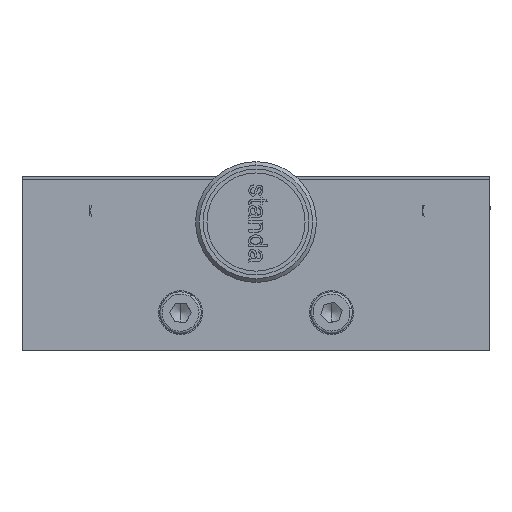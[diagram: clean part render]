
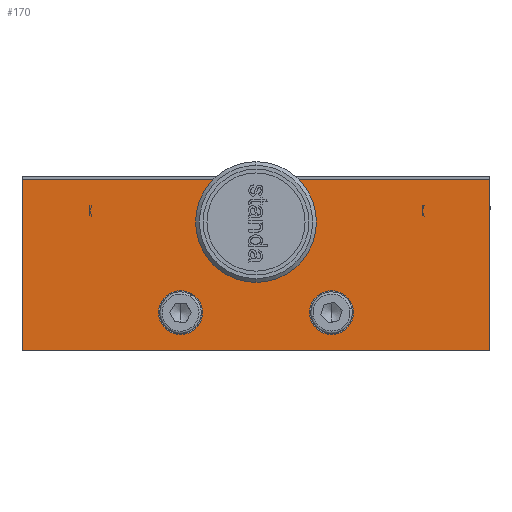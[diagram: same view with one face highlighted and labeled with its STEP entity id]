
A CAD part, front view. The second image highlights one B-rep face of the part: STEP entity #170.
In plain terms, the highlighted planar face has unit normal (0, -1, 0).
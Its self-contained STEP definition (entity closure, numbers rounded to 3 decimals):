
#157 = EDGE_CURVE ( 'NONE', #158, #234, #9746, .T. ) ;
#158 = VERTEX_POINT ( 'NONE', #9742 ) ;
#159 = ORIENTED_EDGE ( 'NONE', *, *, #160, .F. ) ;
#160 = EDGE_CURVE ( 'NONE', #161, #158, #9741, .T. ) ;
#161 = VERTEX_POINT ( 'NONE', #9805 ) ;
#162 = ORIENTED_EDGE ( 'NONE', *, *, #214, .F. ) ;
#170 = ADVANCED_FACE ( 'NONE', ( #9799, #9798, #9797, #9796 ), #9795, .T. ) ;
#171 = EDGE_LOOP ( 'NONE', ( #172, #173 ) ) ;
#172 = ORIENTED_EDGE ( 'NONE', *, *, #8155, .T. ) ;
#173 = ORIENTED_EDGE ( 'NONE', *, *, #307, .T. ) ;
#174 = EDGE_LOOP ( 'NONE', ( #175, #176 ) ) ;
#175 = ORIENTED_EDGE ( 'NONE', *, *, #8137, .T. ) ;
#176 = ORIENTED_EDGE ( 'NONE', *, *, #325, .T. ) ;
#214 = EDGE_CURVE ( 'NONE', #235, #161, #9851, .T. ) ;
#228 = EDGE_LOOP ( 'NONE', ( #229, #230 ) ) ;
#229 = ORIENTED_EDGE ( 'NONE', *, *, #8206, .T. ) ;
#230 = ORIENTED_EDGE ( 'NONE', *, *, #318, .T. ) ;
#231 = EDGE_LOOP ( 'NONE', ( #232, #236, #159, #162 ) ) ;
#232 = ORIENTED_EDGE ( 'NONE', *, *, #233, .F. ) ;
#233 = EDGE_CURVE ( 'NONE', #234, #235, #9889, .T. ) ;
#234 = VERTEX_POINT ( 'NONE', #9885 ) ;
#235 = VERTEX_POINT ( 'NONE', #9884 ) ;
#236 = ORIENTED_EDGE ( 'NONE', *, *, #157, .F. ) ;
#307 = EDGE_CURVE ( 'NONE', #8153, #8156, #9975, .T. ) ;
#318 = EDGE_CURVE ( 'NONE', #8149, #8150, #10016, .T. ) ;
#325 = EDGE_CURVE ( 'NONE', #8166, #8138, #10009, .T. ) ;
#8137 = EDGE_CURVE ( 'NONE', #8138, #8166, #24976, .T. ) ;
#8138 = VERTEX_POINT ( 'NONE', #24971 ) ;
#8149 = VERTEX_POINT ( 'NONE', #25013 ) ;
#8150 = VERTEX_POINT ( 'NONE', #25012 ) ;
#8153 = VERTEX_POINT ( 'NONE', #25007 ) ;
#8155 = EDGE_CURVE ( 'NONE', #8156, #8153, #25006, .T. ) ;
#8156 = VERTEX_POINT ( 'NONE', #25001 ) ;
#8166 = VERTEX_POINT ( 'NONE', #25049 ) ;
#8206 = EDGE_CURVE ( 'NONE', #8150, #8149, #25098, .T. ) ;
#9739 = DIRECTION ( 'NONE',  ( 0., 0., 1. ) ) ;
#9740 = CARTESIAN_POINT ( 'NONE',  ( -7., -7., 0. ) ) ;
#9741 = LINE ( 'NONE', #9740, #9806 ) ;
#9742 = CARTESIAN_POINT ( 'NONE',  ( -7., -7., 22.7 ) ) ;
#9743 = DIRECTION ( 'NONE',  ( 1., 0., 0. ) ) ;
#9744 = VECTOR ( 'NONE', #9743, 1000. ) ;
#9745 = CARTESIAN_POINT ( 'NONE',  ( -7., -7., 22.7 ) ) ;
#9746 = LINE ( 'NONE', #9745, #9744 ) ;
#9791 = DIRECTION ( 'NONE',  ( 1., 0., 0. ) ) ;
#9792 = DIRECTION ( 'NONE',  ( 0., -1., 0. ) ) ;
#9793 = CARTESIAN_POINT ( 'NONE',  ( 24., -7., 11.35 ) ) ;
#9794 = AXIS2_PLACEMENT_3D ( 'NONE', #9793, #9792, #9791 ) ;
#9795 = PLANE ( 'NONE',  #9794 ) ;
#9796 = FACE_OUTER_BOUND ( 'NONE', #231, .T. ) ;
#9797 = FACE_BOUND ( 'NONE', #228, .T. ) ;
#9798 = FACE_BOUND ( 'NONE', #174, .T. ) ;
#9799 = FACE_BOUND ( 'NONE', #171, .T. ) ;
#9805 = CARTESIAN_POINT ( 'NONE',  ( -7., -7., 0. ) ) ;
#9806 = VECTOR ( 'NONE', #9739, 1000. ) ;
#9848 = DIRECTION ( 'NONE',  ( -1., 0., 0. ) ) ;
#9849 = VECTOR ( 'NONE', #9848, 1000. ) ;
#9850 = CARTESIAN_POINT ( 'NONE',  ( 55., -7., 0. ) ) ;
#9851 = LINE ( 'NONE', #9850, #9849 ) ;
#9884 = CARTESIAN_POINT ( 'NONE',  ( 55., -7., 0. ) ) ;
#9885 = CARTESIAN_POINT ( 'NONE',  ( 55., -7., 22.7 ) ) ;
#9886 = DIRECTION ( 'NONE',  ( 0., 0., -1. ) ) ;
#9887 = VECTOR ( 'NONE', #9886, 1000. ) ;
#9888 = CARTESIAN_POINT ( 'NONE',  ( 55., -7., 22.7 ) ) ;
#9889 = LINE ( 'NONE', #9888, #9887 ) ;
#9967 = DIRECTION ( 'NONE',  ( -1., 0., 0. ) ) ;
#9968 = DIRECTION ( 'NONE',  ( 0., 1., 0. ) ) ;
#9969 = CARTESIAN_POINT ( 'NONE',  ( 24., -7., 17. ) ) ;
#9970 = AXIS2_PLACEMENT_3D ( 'NONE', #9969, #9968, #9967 ) ;
#9975 = CIRCLE ( 'NONE', #9970, 5.5 ) ;
#10001 = DIRECTION ( 'NONE',  ( 1., 0., 0. ) ) ;
#10002 = DIRECTION ( 'NONE',  ( 0., 1., 0. ) ) ;
#10003 = CARTESIAN_POINT ( 'NONE',  ( 14., -7., 5. ) ) ;
#10004 = AXIS2_PLACEMENT_3D ( 'NONE', #10003, #10002, #10001 ) ;
#10009 = CIRCLE ( 'NONE', #10004, 2.9 ) ;
#10012 = DIRECTION ( 'NONE',  ( 1., 0., 0. ) ) ;
#10013 = DIRECTION ( 'NONE',  ( 0., 1., 0. ) ) ;
#10014 = CARTESIAN_POINT ( 'NONE',  ( 34., -7., 5. ) ) ;
#10015 = AXIS2_PLACEMENT_3D ( 'NONE', #10014, #10013, #10012 ) ;
#10016 = CIRCLE ( 'NONE', #10015, 2.9 ) ;
#24971 = CARTESIAN_POINT ( 'NONE',  ( 16.9, -7., 5. ) ) ;
#24972 = DIRECTION ( 'NONE',  ( 1., 0., 0. ) ) ;
#24973 = DIRECTION ( 'NONE',  ( 0., 1., 0. ) ) ;
#24974 = CARTESIAN_POINT ( 'NONE',  ( 14., -7., 5. ) ) ;
#24975 = AXIS2_PLACEMENT_3D ( 'NONE', #24974, #24973, #24972 ) ;
#24976 = CIRCLE ( 'NONE', #24975, 2.9 ) ;
#25001 = CARTESIAN_POINT ( 'NONE',  ( 18.5, -7., 17. ) ) ;
#25002 = DIRECTION ( 'NONE',  ( -1., 0., 0. ) ) ;
#25003 = DIRECTION ( 'NONE',  ( 0., 1., 0. ) ) ;
#25004 = CARTESIAN_POINT ( 'NONE',  ( 24., -7., 17. ) ) ;
#25005 = AXIS2_PLACEMENT_3D ( 'NONE', #25004, #25003, #25002 ) ;
#25006 = CIRCLE ( 'NONE', #25005, 5.5 ) ;
#25007 = CARTESIAN_POINT ( 'NONE',  ( 29.5, -7., 17. ) ) ;
#25012 = CARTESIAN_POINT ( 'NONE',  ( 36.9, -7., 5. ) ) ;
#25013 = CARTESIAN_POINT ( 'NONE',  ( 31.1, -7., 5. ) ) ;
#25049 = CARTESIAN_POINT ( 'NONE',  ( 11.1, -7., 5. ) ) ;
#25095 = DIRECTION ( 'NONE',  ( 1., 0., 0. ) ) ;
#25096 = DIRECTION ( 'NONE',  ( 0., 1., 0. ) ) ;
#25097 = AXIS2_PLACEMENT_3D ( 'NONE', #25103, #25096, #25095 ) ;
#25098 = CIRCLE ( 'NONE', #25097, 2.9 ) ;
#25103 = CARTESIAN_POINT ( 'NONE',  ( 34., -7., 5. ) ) ;
